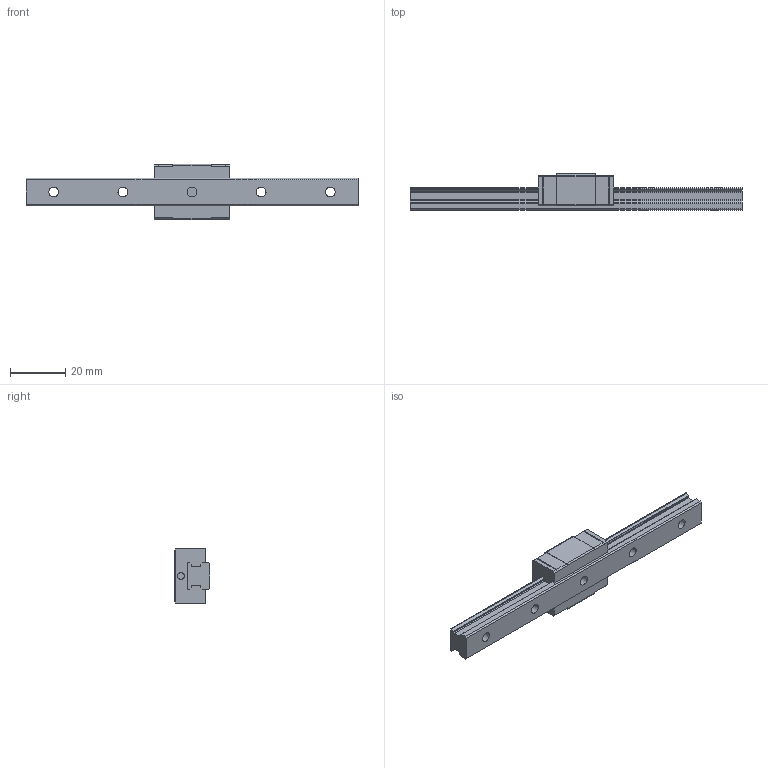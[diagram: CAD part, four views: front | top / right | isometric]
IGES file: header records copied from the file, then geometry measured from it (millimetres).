
Start section: Data from Parasolid IGES Translator 26.0.171, Copyright(c) 2006 Siemens PLM Software. All Rights Reserved.
Global section: file name: HRG10SRM1UU-120LHM_G10_0_Without_grease_nipple_46-35_0_0_01.igs; native system: By Siemens PLM Incorporated; preprocessor: XPlus GENERIC/IGES 26.0.171; author: Noname; organization: Noname; date: 20240523.112236; units: millimetre
Bounding box: 120 x 13 x 20 mm (x, y, z)
Surface area: 7757.7 mm2 (no closed solid volume)
Topology: 0 solids, 0 shells, 138 faces, 764 edges, 738 vertices
Faces by surface type: extrusion 86, revolution 52
